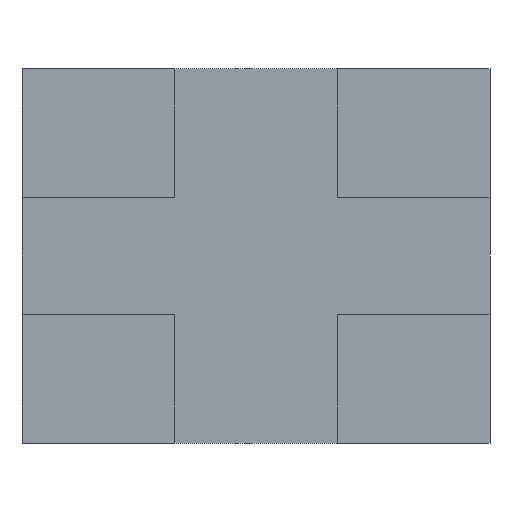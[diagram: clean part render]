
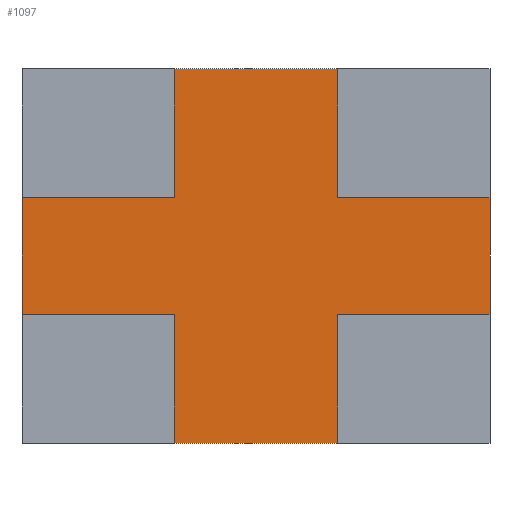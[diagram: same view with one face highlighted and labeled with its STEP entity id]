
A CAD part, front view. The second image highlights one B-rep face of the part: STEP entity #1097.
In plain terms, the highlighted planar face has unit normal (0, -1, 0).
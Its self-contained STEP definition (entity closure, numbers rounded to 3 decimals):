
#990 = CARTESIAN_POINT ( 'NONE',  ( 1., 0.02, 0.8 ) ) ;
#991 = VERTEX_POINT ( 'NONE', #990 ) ;
#992 = CARTESIAN_POINT ( 'NONE',  ( 1., 0.02, -0.8 ) ) ;
#993 = VERTEX_POINT ( 'NONE', #992 ) ;
#994 = CARTESIAN_POINT ( 'NONE',  ( 1., 0.02, 0.8 ) ) ;
#995 = DIRECTION ( 'NONE',  ( 0., 0., -1. ) ) ;
#996 = VECTOR ( 'NONE', #995, 1000. ) ;
#997 = LINE ( 'NONE', #994, #996 ) ;
#998 = EDGE_CURVE ( 'NONE', #991, #993, #997, .T. ) ;
#1021 = CARTESIAN_POINT ( 'NONE',  ( -1., 0.02, -0.8 ) ) ;
#1022 = VERTEX_POINT ( 'NONE', #1021 ) ;
#1023 = CARTESIAN_POINT ( 'NONE',  ( -1., 0.02, -0.8 ) ) ;
#1024 = DIRECTION ( 'NONE',  ( -1., 0., 0. ) ) ;
#1025 = VECTOR ( 'NONE', #1024, 1000. ) ;
#1026 = LINE ( 'NONE', #1023, #1025 ) ;
#1027 = EDGE_CURVE ( 'NONE', #993, #1022, #1026, .T. ) ;
#1045 = CARTESIAN_POINT ( 'NONE',  ( -1., 0.02, 0.8 ) ) ;
#1046 = VERTEX_POINT ( 'NONE', #1045 ) ;
#1047 = CARTESIAN_POINT ( 'NONE',  ( -1., 0.02, 0.8 ) ) ;
#1048 = DIRECTION ( 'NONE',  ( 0., 0., 1. ) ) ;
#1049 = VECTOR ( 'NONE', #1048, 1000. ) ;
#1050 = LINE ( 'NONE', #1047, #1049 ) ;
#1051 = EDGE_CURVE ( 'NONE', #1022, #1046, #1050, .T. ) ;
#1069 = CARTESIAN_POINT ( 'NONE',  ( -1., 0.02, 0.8 ) ) ;
#1070 = DIRECTION ( 'NONE',  ( 1., 0., 0. ) ) ;
#1071 = VECTOR ( 'NONE', #1070, 1000. ) ;
#1072 = LINE ( 'NONE', #1069, #1071 ) ;
#1073 = EDGE_CURVE ( 'NONE', #1046, #991, #1072, .T. ) ;
#1086 = ORIENTED_EDGE ( 'NONE', *, *, #998, .F. ) ;
#1087 = ORIENTED_EDGE ( 'NONE', *, *, #1073, .F. ) ;
#1088 = ORIENTED_EDGE ( 'NONE', *, *, #1051, .F. ) ;
#1089 = ORIENTED_EDGE ( 'NONE', *, *, #1027, .F. ) ;
#1090 = EDGE_LOOP ( 'NONE', ( #1086, #1087, #1088, #1089 ) ) ;
#1091 = FACE_OUTER_BOUND ( 'NONE', #1090, .T. ) ;
#1092 = CARTESIAN_POINT ( 'NONE',  ( 0., 0.02, 0. ) ) ;
#1093 = DIRECTION ( 'NONE',  ( 0., -1., 0. ) ) ;
#1094 = DIRECTION ( 'NONE',  ( 0., 0., -1. ) ) ;
#1095 = AXIS2_PLACEMENT_3D ( 'NONE', #1092, #1093, #1094 ) ;
#1096 = PLANE ( 'NONE', #1095 ) ;
#1097 = ADVANCED_FACE ( 'NONE', ( #1091 ), #1096, .T. ) ;
